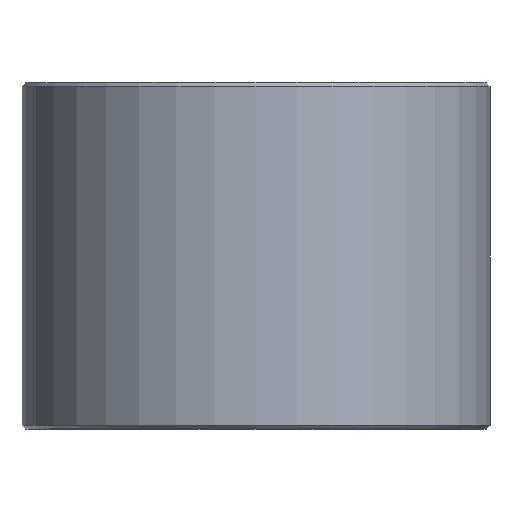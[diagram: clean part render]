
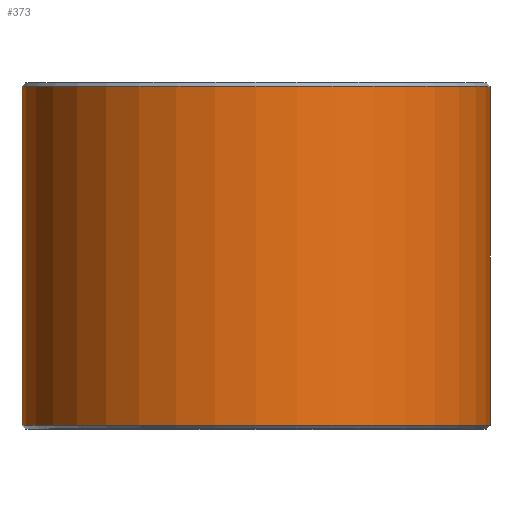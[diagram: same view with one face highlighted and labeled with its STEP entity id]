
A CAD part, top view. The second image highlights one B-rep face of the part: STEP entity #373.
In plain terms, the highlighted cylindrical face has radius 12.5 mm (diameter 25 mm), a full revolution.
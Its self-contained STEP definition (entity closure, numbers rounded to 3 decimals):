
#277 = CONICAL_SURFACE('',#278,12.5,0.785);
#278 = AXIS2_PLACEMENT_3D('',#279,#280,#281);
#279 = CARTESIAN_POINT('',(78.381,72.548,88.664));
#280 = DIRECTION('',(0.,1.,0.));
#281 = DIRECTION('',(0.,0.,-1.));
#325 = VERTEX_POINT('',#326);
#326 = CARTESIAN_POINT('',(78.381,72.548,101.164));
#346 = EDGE_CURVE('',#325,#325,#347,.T.);
#347 = SURFACE_CURVE('',#348,(#353,#360),.PCURVE_S1.);
#348 = CIRCLE('',#349,12.5);
#349 = AXIS2_PLACEMENT_3D('',#350,#351,#352);
#350 = CARTESIAN_POINT('',(78.381,72.548,88.664));
#351 = DIRECTION('',(0.,-1.,0.));
#352 = DIRECTION('',(0.,0.,-1.));
#353 = PCURVE('',#277,#354);
#354 = DEFINITIONAL_REPRESENTATION('',(#355),#359);
#355 = LINE('',#356,#357);
#356 = CARTESIAN_POINT('',(12.566,0.));
#357 = VECTOR('',#358,1.);
#358 = DIRECTION('',(-1.,0.));
#359 = ( GEOMETRIC_REPRESENTATION_CONTEXT(2) 
PARAMETRIC_REPRESENTATION_CONTEXT() REPRESENTATION_CONTEXT('2D SPACE',''
  ) );
#360 = PCURVE('',#361,#366);
#361 = CYLINDRICAL_SURFACE('',#362,12.5);
#362 = AXIS2_PLACEMENT_3D('',#363,#364,#365);
#363 = CARTESIAN_POINT('',(78.381,90.648,88.664));
#364 = DIRECTION('',(0.,-1.,0.));
#365 = DIRECTION('',(0.,0.,-1.));
#366 = DEFINITIONAL_REPRESENTATION('',(#367),#371);
#367 = LINE('',#368,#369);
#368 = CARTESIAN_POINT('',(0.,18.1));
#369 = VECTOR('',#370,1.);
#370 = DIRECTION('',(1.,0.));
#371 = ( GEOMETRIC_REPRESENTATION_CONTEXT(2) 
PARAMETRIC_REPRESENTATION_CONTEXT() REPRESENTATION_CONTEXT('2D SPACE',''
  ) );
#373 = ADVANCED_FACE('',(#374),#361,.T.);
#374 = FACE_BOUND('',#375,.T.);
#375 = EDGE_LOOP('',(#376,#377,#399,#426));
#376 = ORIENTED_EDGE('',*,*,#346,.F.);
#377 = ORIENTED_EDGE('',*,*,#378,.F.);
#378 = EDGE_CURVE('',#379,#325,#381,.T.);
#379 = VERTEX_POINT('',#380);
#380 = CARTESIAN_POINT('',(78.381,90.648,101.164));
#381 = SEAM_CURVE('',#382,(#385,#392),.PCURVE_S1.);
#382 = B_SPLINE_CURVE_WITH_KNOTS('',1,(#383,#384),.UNSPECIFIED.,.F.,.F.,
  (2,2),(0.,18.1),.PIECEWISE_BEZIER_KNOTS.);
#383 = CARTESIAN_POINT('',(78.381,90.648,101.164));
#384 = CARTESIAN_POINT('',(78.381,72.548,101.164));
#385 = PCURVE('',#361,#386);
#386 = DEFINITIONAL_REPRESENTATION('',(#387),#391);
#387 = LINE('',#388,#389);
#388 = CARTESIAN_POINT('',(3.142,0.));
#389 = VECTOR('',#390,1.);
#390 = DIRECTION('',(0.,1.));
#391 = ( GEOMETRIC_REPRESENTATION_CONTEXT(2) 
PARAMETRIC_REPRESENTATION_CONTEXT() REPRESENTATION_CONTEXT('2D SPACE',''
  ) );
#392 = PCURVE('',#361,#393);
#393 = DEFINITIONAL_REPRESENTATION('',(#394),#398);
#394 = LINE('',#395,#396);
#395 = CARTESIAN_POINT('',(9.425,0.));
#396 = VECTOR('',#397,1.);
#397 = DIRECTION('',(0.,1.));
#398 = ( GEOMETRIC_REPRESENTATION_CONTEXT(2) 
PARAMETRIC_REPRESENTATION_CONTEXT() REPRESENTATION_CONTEXT('2D SPACE',''
  ) );
#399 = ORIENTED_EDGE('',*,*,#400,.F.);
#400 = EDGE_CURVE('',#379,#379,#401,.T.);
#401 = SURFACE_CURVE('',#402,(#407,#414),.PCURVE_S1.);
#402 = CIRCLE('',#403,12.5);
#403 = AXIS2_PLACEMENT_3D('',#404,#405,#406);
#404 = CARTESIAN_POINT('',(78.381,90.648,88.664));
#405 = DIRECTION('',(0.,1.,0.));
#406 = DIRECTION('',(0.,0.,-1.));
#407 = PCURVE('',#361,#408);
#408 = DEFINITIONAL_REPRESENTATION('',(#409),#413);
#409 = LINE('',#410,#411);
#410 = CARTESIAN_POINT('',(12.566,0.));
#411 = VECTOR('',#412,1.);
#412 = DIRECTION('',(-1.,0.));
#413 = ( GEOMETRIC_REPRESENTATION_CONTEXT(2) 
PARAMETRIC_REPRESENTATION_CONTEXT() REPRESENTATION_CONTEXT('2D SPACE',''
  ) );
#414 = PCURVE('',#415,#420);
#415 = CONICAL_SURFACE('',#416,12.5,0.785);
#416 = AXIS2_PLACEMENT_3D('',#417,#418,#419);
#417 = CARTESIAN_POINT('',(78.381,90.648,88.664));
#418 = DIRECTION('',(0.,-1.,0.));
#419 = DIRECTION('',(0.,0.,-1.));
#420 = DEFINITIONAL_REPRESENTATION('',(#421),#425);
#421 = LINE('',#422,#423);
#422 = CARTESIAN_POINT('',(12.566,0.));
#423 = VECTOR('',#424,1.);
#424 = DIRECTION('',(-1.,0.));
#425 = ( GEOMETRIC_REPRESENTATION_CONTEXT(2) 
PARAMETRIC_REPRESENTATION_CONTEXT() REPRESENTATION_CONTEXT('2D SPACE',''
  ) );
#426 = ORIENTED_EDGE('',*,*,#378,.T.);
